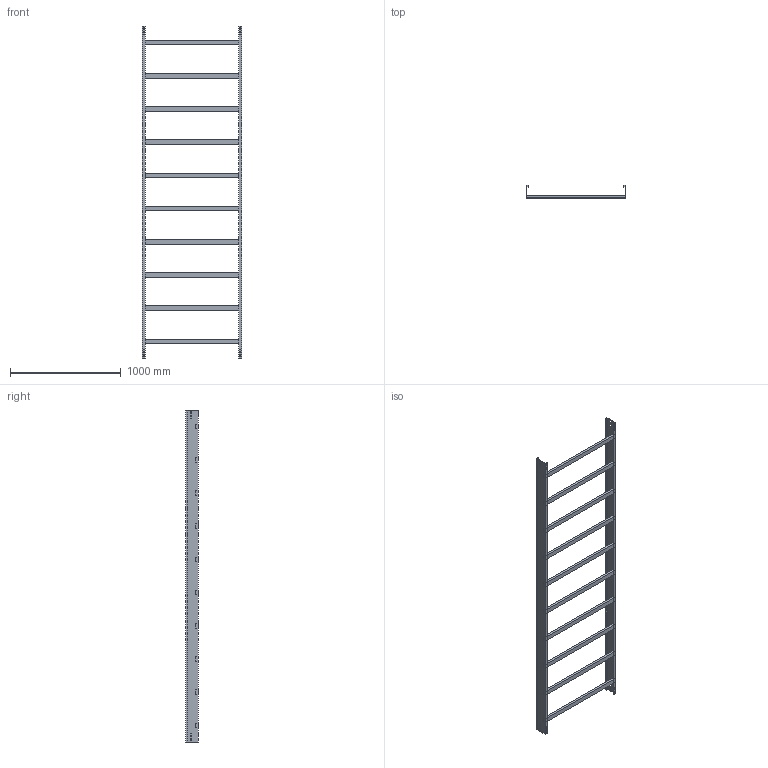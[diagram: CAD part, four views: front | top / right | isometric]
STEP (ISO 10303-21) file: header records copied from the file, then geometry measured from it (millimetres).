
FILE_DESCRIPTION (( 'STEP AP214' ), '1' );
FILE_NAME ('01B3J900.step', '2025-02-21T16:00:36', ( '' ), ( '' ), 'SwSTEP 2.0', 'SolidWorks 2023', '' );
FILE_SCHEMA (( 'AUTOMOTIVE_DESIGN' ));
Length unit declared in the file: millimetre
Products named in the file (3): LONGH.H112.5; TRAVERSINO_900; 01B3J900
Assembly tree (12 placements, depth 2):
  01B3J900
    LONGH.H112.5  x2
    TRAVERSINO_900  x10
Bounding box: 900 x 112.5 x 3000 mm (x, y, z)
Volume: 10054672 mm3; surface area: 2965156 mm2
Topology: 12 solids, 12 shells, 144 faces, 360 edges, 240 vertices
Faces by surface type: plane 144
Entity records: 1696 total; most frequent: CARTESIAN_POINT 283, ORIENTED_EDGE 264, DIRECTION 258, EDGE_CURVE 132, LINE 132, VECTOR 132, VERTEX_POINT 88, EDGE_LOOP 64
